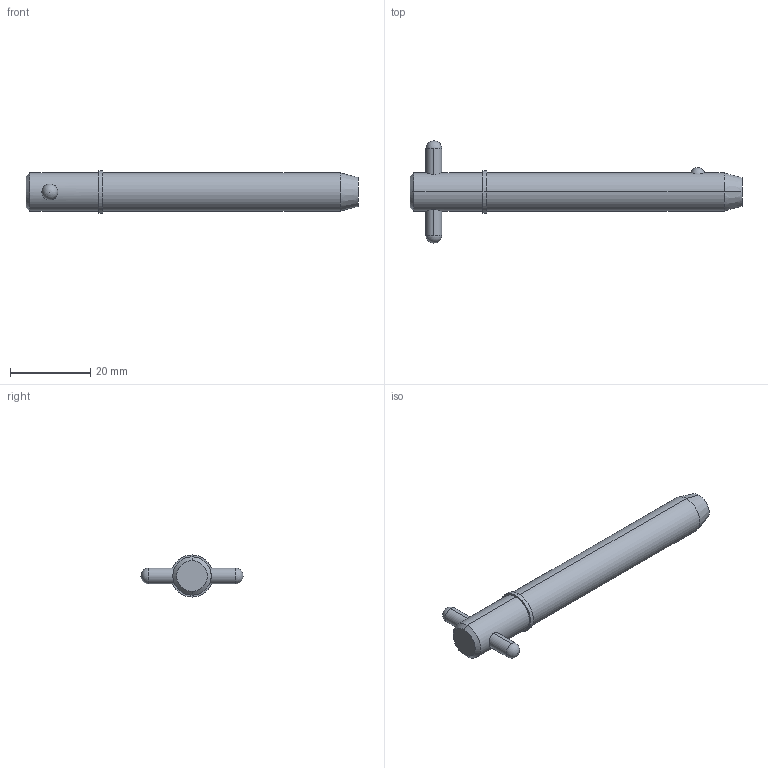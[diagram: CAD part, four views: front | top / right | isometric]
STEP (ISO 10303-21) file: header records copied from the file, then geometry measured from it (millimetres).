
FILE_DESCRIPTION (( 'STEP AP203' ), '1' );
FILE_NAME ('33018.W3720.step', '2024-11-19T17:11:14', ( '' ), ( '' ), 'SwSTEP 2.0', 'SolidWorks 2019', '' );
FILE_SCHEMA (( 'CONFIG_CONTROL_DESIGN' ));
Length unit declared in the file: millimetre
Products named in the file (3): Part1_33018.W3720; Part2_33018.W3720; 33018.W3720
Assembly tree (2 placements, depth 2):
  33018.W3720
    Part1_33018.W3720
    Part2_33018.W3720
Bounding box: 82.55 x 25.4 x 10.48 mm (x, y, z)
Volume: 6006.8 mm3; surface area: 2995.9 mm2
Topology: 2 solids, 2 shells, 22 faces, 47 edges, 30 vertices
Faces by surface type: cylinder 10, sphere 4, cone 4, plane 4
Entity records: 1023 total; most frequent: CARTESIAN_POINT 266, DIRECTION 110, ORIENTED_EDGE 82, AXIS2_PLACEMENT_3D 48, EDGE_CURVE 41, EDGE_LOOP 27, PERSON_AND_ORGANIZATION 26, VERTEX_POINT 26
